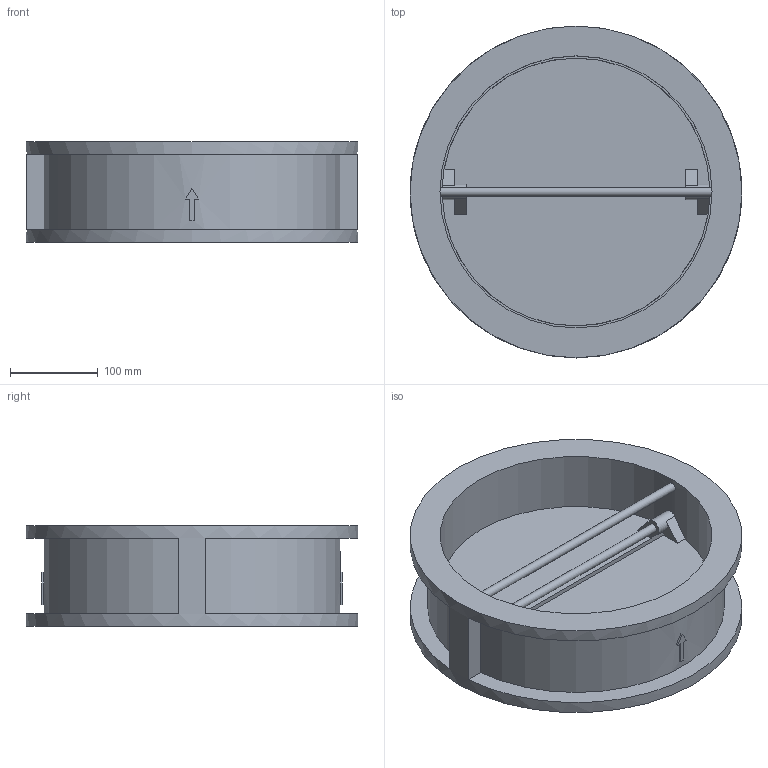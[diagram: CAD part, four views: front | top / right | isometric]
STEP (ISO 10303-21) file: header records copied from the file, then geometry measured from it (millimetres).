
FILE_DESCRIPTION(('STEP AP203'), '1');
FILE_NAME('孰囡囗 钺疣蝽 溻篚耱忸瘅囹 戾骠豚眦邂 010C.Y DN300', '', ('UNSPECIFIED'), ('UNSPECIFIED'), 'ASCON STEP Converter 1.6', 'ASCON Math Kernel', '');
FILE_SCHEMA(('CONFIG_CONTROL_DESIGN'));
Length unit declared in the file: millimetre
Bounding box: 378 x 378 x 114 mm (x, y, z)
Volume: 3692193.9 mm3; surface area: 551308.3 mm2
Topology: 1 solids, 1 shells, 75 faces, 210 edges, 138 vertices
Faces by surface type: plane 58, cylinder 16, cone 1
Full cylindrical faces by diameter (mm): 10 x4, 310 x1, 378 x1
Entity records: 4223 total; most frequent: CARTESIAN_POINT 1685, ORIENTED_EDGE 404, DIRECTION 370, EDGE_CURVE 202, VERTEX_POINT 138, LINE 130, VECTOR 130, AXIS2_PLACEMENT_3D 120
